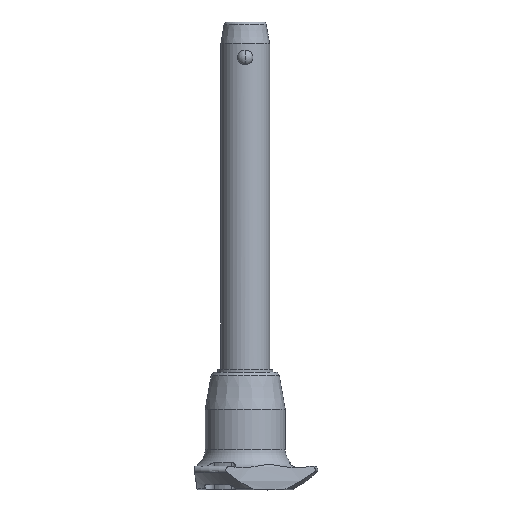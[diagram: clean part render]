
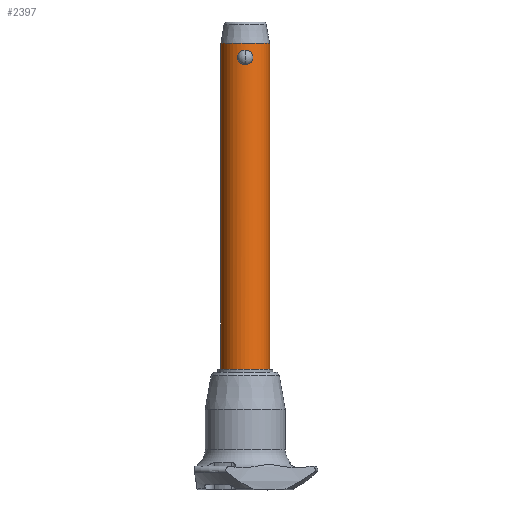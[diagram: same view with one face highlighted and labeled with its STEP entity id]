
A CAD part, front view. The second image highlights one B-rep face of the part: STEP entity #2397.
In plain terms, the highlighted cylindrical face has radius 8 mm (diameter 16 mm), a partial arc.
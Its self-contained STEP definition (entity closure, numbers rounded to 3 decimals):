
#9 = ORIENTED_EDGE ( 'NONE', *, *, #2122, .T. ) ;
#41 = CARTESIAN_POINT ( 'NONE',  ( -2.193, -7.694, 3.623 ) ) ;
#51 = CARTESIAN_POINT ( 'NONE',  ( -1.527, -7.854, 4.313 ) ) ;
#65 = CARTESIAN_POINT ( 'NONE',  ( 2.194, -7.694, 1.153 ) ) ;
#78 = CARTESIAN_POINT ( 'NONE',  ( 1.894, -7.773, 0.773 ) ) ;
#142 = CARTESIAN_POINT ( 'NONE',  ( 0., -8., 4.775 ) ) ;
#171 = CARTESIAN_POINT ( 'NONE',  ( -8., 0., -100. ) ) ;
#174 = CARTESIAN_POINT ( 'NONE',  ( 0.804, -7.961, 4.661 ) ) ;
#184 = EDGE_CURVE ( 'NONE', #1634, #1192, #401, .T. ) ;
#219 = CARTESIAN_POINT ( 'NONE',  ( -2.546, -7.584, 2.553 ) ) ;
#233 = CARTESIAN_POINT ( 'NONE',  ( -1.896, -7.773, 4.001 ) ) ;
#235 = FACE_BOUND ( 'NONE', #449, .T. ) ;
#276 = CARTESIAN_POINT ( 'NONE',  ( -0.645, -7.976, 4.704 ) ) ;
#302 = CARTESIAN_POINT ( 'NONE',  ( 2.016, -7.746, 3.891 ) ) ;
#331 = DIRECTION ( 'NONE',  ( 0., 0., -1. ) ) ;
#362 = CARTESIAN_POINT ( 'NONE',  ( -8., 0., 7. ) ) ;
#401 = B_SPLINE_CURVE_WITH_KNOTS ( 'NONE', 3,
 ( #2502, #1847, #974, #739, #2272, #1620, #1177, #78, #725, #65, #1606, #2730, #507, #2044, #519, #752, #2488, #961, #1392, #1834, #302, #2058, #2257, #1408, #2133, #174, #1300, #2817, #633, #142 ),
 .UNSPECIFIED., .F., .F.,
 ( 4, 2, 2, 2, 2, 2, 2, 2, 2, 2, 2, 2, 2, 2, 4 ),
 ( 0.008, 0.009, 0.009, 0.01, 0.01, 0.011, 0.011, 0.012, 0.012, 0.013, 0.014, 0.014, 0.015, 0.015, 0.016 ),
 .UNSPECIFIED. ) ;
#411 = DIRECTION ( 'NONE',  ( 0., 0., 1. ) ) ;
#446 = ORIENTED_EDGE ( 'NONE', *, *, #1832, .F. ) ;
#449 = EDGE_LOOP ( 'NONE', ( #446, #1150 ) ) ;
#453 = FACE_OUTER_BOUND ( 'NONE', #1260, .T. ) ;
#465 = CARTESIAN_POINT ( 'NONE',  ( -2.529, -7.59, 2.064 ) ) ;
#499 = CARTESIAN_POINT ( 'NONE',  ( 0., -8., 0. ) ) ;
#507 = CARTESIAN_POINT ( 'NONE',  ( 2.46, -7.613, 1.742 ) ) ;
#519 = CARTESIAN_POINT ( 'NONE',  ( 2.546, -7.584, 2.22 ) ) ;
#616 = EDGE_CURVE ( 'NONE', #2660, #1023, #992, .T. ) ;
#633 = CARTESIAN_POINT ( 'NONE',  ( 0.164, -8., 4.775 ) ) ;
#685 = CARTESIAN_POINT ( 'NONE',  ( -1.106, -7.925, 0.226 ) ) ;
#697 = CARTESIAN_POINT ( 'NONE',  ( -0.803, -7.961, 4.661 ) ) ;
#710 = CARTESIAN_POINT ( 'NONE',  ( -1.254, -7.902, 0.297 ) ) ;
#714 = CYLINDRICAL_SURFACE ( 'NONE', #1871, 8. ) ;
#725 = CARTESIAN_POINT ( 'NONE',  ( 2.004, -7.746, 0.894 ) ) ;
#739 = CARTESIAN_POINT ( 'NONE',  ( 1.105, -7.925, 0.226 ) ) ;
#752 = CARTESIAN_POINT ( 'NONE',  ( 2.547, -7.584, 2.549 ) ) ;
#826 = VERTEX_POINT ( 'NONE', #362 ) ;
#840 = ORIENTED_EDGE ( 'NONE', *, *, #865, .F. ) ;
#865 = EDGE_CURVE ( 'NONE', #1023, #826, #2128, .T. ) ;
#890 = CARTESIAN_POINT ( 'NONE',  ( -0.652, -7.979, 0.058 ) ) ;
#910 = AXIS2_PLACEMENT_3D ( 'NONE', #1217, #331, #2273 ) ;
#925 = CARTESIAN_POINT ( 'NONE',  ( 0., -8., 0. ) ) ;
#934 = CARTESIAN_POINT ( 'NONE',  ( 0., -8., 4.775 ) ) ;
#947 = CARTESIAN_POINT ( 'NONE',  ( -2.459, -7.613, 3.036 ) ) ;
#961 = CARTESIAN_POINT ( 'NONE',  ( 2.461, -7.612, 3.027 ) ) ;
#974 = CARTESIAN_POINT ( 'NONE',  ( 0.652, -7.979, 0.058 ) ) ;
#992 = CIRCLE ( 'NONE', #2605, 8. ) ;
#1023 = VERTEX_POINT ( 'NONE', #2060 ) ;
#1112 = CARTESIAN_POINT ( 'NONE',  ( -2.547, -7.584, 2.229 ) ) ;
#1142 = CARTESIAN_POINT ( 'NONE',  ( -0.164, -8., 4.775 ) ) ;
#1150 = ORIENTED_EDGE ( 'NONE', *, *, #184, .F. ) ;
#1155 = CARTESIAN_POINT ( 'NONE',  ( -1.658, -7.827, 4.216 ) ) ;
#1156 = CARTESIAN_POINT ( 'NONE',  ( 0., 0., -100. ) ) ;
#1167 = CARTESIAN_POINT ( 'NONE',  ( -1.252, -7.903, 4.479 ) ) ;
#1177 = CARTESIAN_POINT ( 'NONE',  ( 1.657, -7.827, 0.558 ) ) ;
#1192 = VERTEX_POINT ( 'NONE', #1281 ) ;
#1200 = CARTESIAN_POINT ( 'NONE',  ( 8., 0., -100. ) ) ;
#1217 = CARTESIAN_POINT ( 'NONE',  ( 0., 0., 7. ) ) ;
#1221 = CARTESIAN_POINT ( 'NONE',  ( 8., 0., 7. ) ) ;
#1260 = EDGE_LOOP ( 'NONE', ( #840, #2747, #9, #2536 ) ) ;
#1281 = CARTESIAN_POINT ( 'NONE',  ( 0., -8., 4.775 ) ) ;
#1300 = CARTESIAN_POINT ( 'NONE',  ( 0.645, -7.976, 4.704 ) ) ;
#1368 = CARTESIAN_POINT ( 'NONE',  ( -1.659, -7.827, 0.559 ) ) ;
#1388 = CARTESIAN_POINT ( 'NONE',  ( 0., 0., -100. ) ) ;
#1392 = CARTESIAN_POINT ( 'NONE',  ( 2.41, -7.629, 3.184 ) ) ;
#1408 = CARTESIAN_POINT ( 'NONE',  ( 1.253, -7.903, 4.478 ) ) ;
#1433 = DIRECTION ( 'NONE',  ( 0., 0., 1. ) ) ;
#1553 = CIRCLE ( 'NONE', #910, 8. ) ;
#1599 = DIRECTION ( 'NONE',  ( 0., 0., 1. ) ) ;
#1606 = CARTESIAN_POINT ( 'NONE',  ( 2.275, -7.67, 1.291 ) ) ;
#1620 = CARTESIAN_POINT ( 'NONE',  ( 1.529, -7.854, 0.463 ) ) ;
#1634 = VERTEX_POINT ( 'NONE', #925 ) ;
#1665 = LINE ( 'NONE', #1200, #2566 ) ;
#1768 = CARTESIAN_POINT ( 'NONE',  ( -0.324, -8., 0. ) ) ;
#1811 = CARTESIAN_POINT ( 'NONE',  ( -2.529, -7.59, 2.716 ) ) ;
#1832 = EDGE_CURVE ( 'NONE', #1192, #1634, #2406, .T. ) ;
#1834 = CARTESIAN_POINT ( 'NONE',  ( 2.211, -7.69, 3.626 ) ) ;
#1847 = CARTESIAN_POINT ( 'NONE',  ( 0.324, -8., 0. ) ) ;
#1871 = AXIS2_PLACEMENT_3D ( 'NONE', #1388, #1599, #2252 ) ;
#1876 = CARTESIAN_POINT ( 'NONE',  ( 8., 0., -100. ) ) ;
#1980 = CARTESIAN_POINT ( 'NONE',  ( -2.016, -7.746, 0.883 ) ) ;
#1997 = VECTOR ( 'NONE', #411, 1000. ) ;
#2010 = CARTESIAN_POINT ( 'NONE',  ( -2.411, -7.628, 1.592 ) ) ;
#2044 = CARTESIAN_POINT ( 'NONE',  ( 2.528, -7.59, 2.058 ) ) ;
#2058 = CARTESIAN_POINT ( 'NONE',  ( 1.66, -7.827, 4.215 ) ) ;
#2060 = CARTESIAN_POINT ( 'NONE',  ( -8., 0., -100. ) ) ;
#2122 = EDGE_CURVE ( 'NONE', #2660, #2520, #1665, .T. ) ;
#2128 = LINE ( 'NONE', #171, #1997 ) ;
#2133 = CARTESIAN_POINT ( 'NONE',  ( 1.108, -7.924, 4.548 ) ) ;
#2153 = DIRECTION ( 'NONE',  ( 0., 0., -1. ) ) ;
#2190 = CARTESIAN_POINT ( 'NONE',  ( -2.408, -7.629, 3.189 ) ) ;
#2203 = CARTESIAN_POINT ( 'NONE',  ( -2.211, -7.69, 1.148 ) ) ;
#2217 = CARTESIAN_POINT ( 'NONE',  ( -1.107, -7.924, 4.548 ) ) ;
#2252 = DIRECTION ( 'NONE',  ( 1., 0., 0. ) ) ;
#2257 = CARTESIAN_POINT ( 'NONE',  ( 1.529, -7.854, 4.312 ) ) ;
#2272 = CARTESIAN_POINT ( 'NONE',  ( 1.252, -7.903, 0.296 ) ) ;
#2273 = DIRECTION ( 'NONE',  ( 1., 0., 0. ) ) ;
#2397 = ADVANCED_FACE ( 'NONE', ( #453, #235 ), #714, .T. ) ;
#2406 = B_SPLINE_CURVE_WITH_KNOTS ( 'NONE', 3,
 ( #934, #1142, #2678, #276, #697, #2217, #1167, #51, #1155, #233, #2632, #41, #2480, #2190, #947, #1811, #219, #1112, #465, #2691, #2010, #2203, #1980, #1368, #2461, #710, #685, #890, #1768, #499 ),
 .UNSPECIFIED., .F., .F.,
 ( 4, 2, 2, 2, 2, 2, 2, 2, 2, 2, 2, 2, 2, 2, 4 ),
 ( 0., 0., 0.001, 0.001, 0.002, 0.002, 0.003, 0.003, 0.004, 0.004, 0.005, 0.006, 0.006, 0.007, 0.008 ),
 .UNSPECIFIED. ) ;
#2461 = CARTESIAN_POINT ( 'NONE',  ( -1.53, -7.854, 0.464 ) ) ;
#2480 = CARTESIAN_POINT ( 'NONE',  ( -2.276, -7.67, 3.482 ) ) ;
#2488 = CARTESIAN_POINT ( 'NONE',  ( 2.529, -7.59, 2.71 ) ) ;
#2502 = CARTESIAN_POINT ( 'NONE',  ( 0., -8., 0. ) ) ;
#2520 = VERTEX_POINT ( 'NONE', #1221 ) ;
#2536 = ORIENTED_EDGE ( 'NONE', *, *, #2696, .T. ) ;
#2566 = VECTOR ( 'NONE', #1433, 1000. ) ;
#2605 = AXIS2_PLACEMENT_3D ( 'NONE', #1156, #2153, #2864 ) ;
#2632 = CARTESIAN_POINT ( 'NONE',  ( -2.003, -7.746, 3.882 ) ) ;
#2660 = VERTEX_POINT ( 'NONE', #1876 ) ;
#2678 = CARTESIAN_POINT ( 'NONE',  ( -0.326, -7.995, 4.761 ) ) ;
#2691 = CARTESIAN_POINT ( 'NONE',  ( -2.461, -7.612, 1.746 ) ) ;
#2696 = EDGE_CURVE ( 'NONE', #2520, #826, #1553, .T. ) ;
#2730 = CARTESIAN_POINT ( 'NONE',  ( 2.408, -7.629, 1.586 ) ) ;
#2747 = ORIENTED_EDGE ( 'NONE', *, *, #616, .F. ) ;
#2817 = CARTESIAN_POINT ( 'NONE',  ( 0.326, -7.995, 4.761 ) ) ;
#2864 = DIRECTION ( 'NONE',  ( 1., 0., 0. ) ) ;
